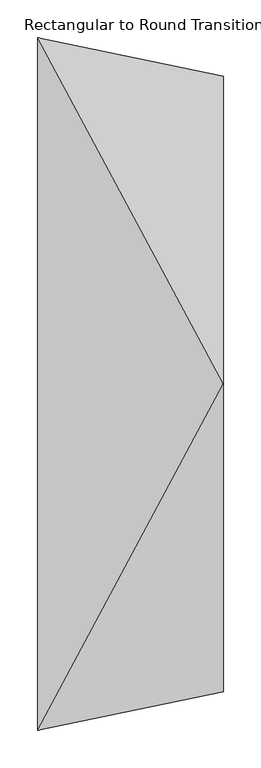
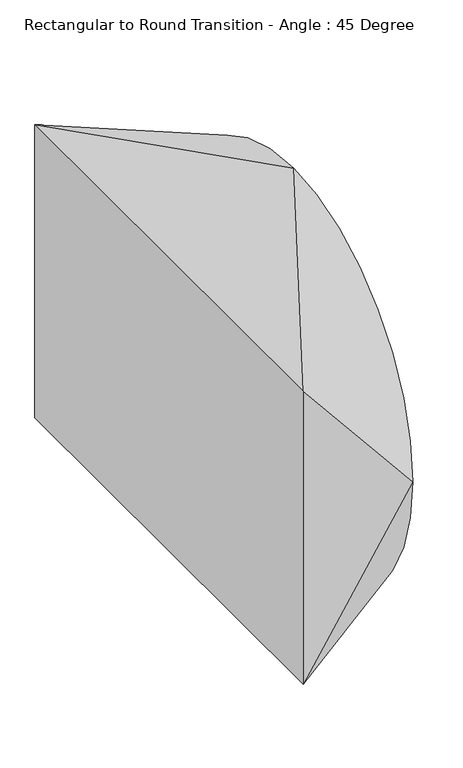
"""IFC4 building model written with IfcOpenShell, lengths in millimetres: duct fitting geometry, Rectangular to Round Transition - Angle : 45 Degree."""

from ifc_helpers import new_model, si_unit, frame, origin, place, context, project, spatial, circle_curve, source, transform, mapped, element, save
from ifc_brep_helpers import plane_surface, spline_surface, advanced_brep


def rectangular_to_round_transition_angle_45_degree_0f345050(model_context):
    return source(origin(), model_context, "Body", "AdvancedBrep", [
        advanced_brep(
        [(245.2840979, 0.0, 406.4), (245.2840979, -406.4, 0.0), (245.2840979, 0.0, -406.4), (245.2840979, 406.4, 0.0), (0.0, -457.2, 304.8), (0.0, 457.2, 304.8), (0.0, 457.2, -304.8), (0.0, -457.2, -304.8)],
        [
            (0, 1, circle_curve(frame((245.2840979, 0.0, 0.0), z_axis=(1.0, 0.0, 0.0), x_axis=(0.0, 1.0, 0.0)), 406.4)),
            (1, 2, circle_curve(frame((245.2840979, 0.0, 0.0), z_axis=(1.0, 0.0, 0.0), x_axis=(0.0, 1.0, 0.0)), 406.4)),
            (2, 3, circle_curve(frame((245.2840979, 0.0, 0.0), z_axis=(1.0, 0.0, 0.0), x_axis=(0.0, 1.0, 0.0)), 406.4)),
            (3, 0, circle_curve(frame((245.2840979, 0.0, 0.0), z_axis=(1.0, 0.0, 0.0), x_axis=(0.0, 1.0, 0.0)), 406.4)),
            (4, 5),
            (5, 6),
            (6, 7),
            (7, 4),
            (0, 4),
            (4, 1),
            (7, 1),
            (7, 2),
            (6, 2),
            (6, 3),
            (5, 3),
            (5, 0),
        ],
        [
            plane_surface(frame((245.2840979, 0.0, 0.0), z_axis=(1.0, 0.0, 0.0), x_axis=(0.0, 0.0, -1.0))),
            plane_surface(frame((0.0, 0.0, 0.0), z_axis=(-1.0, 0.0, 0.0), x_axis=(0.0, 0.0, -1.0))),
            spline_surface(2, 1, [[(0.0, -457.2, 304.8), (245.2840979, 0.0, 406.4)], [(0.0, -457.2, 304.8), (245.2840979, -406.4, 406.4)], [(0.0, -457.2, 304.8), (245.2840979, -406.4, 0.0)]], [3, 3], [2, 2], [0.0, 1.0], [0.0, 1.0], weights=[[1.0, 1.0], [0.7071067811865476, 0.7071067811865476], [1.0, 1.0]]),
            plane_surface(frame((0.0, -457.2, 0.0), z_axis=(0.20280301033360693, -0.9792195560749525, 0.0), x_axis=(0.0, 0.0, -1.0))),
            spline_surface(2, 1, [[(0.0, -457.2, -304.8), (245.2840979, -406.4, 0.0)], [(0.0, -457.2, -304.8), (245.2840979, -406.4, -406.4)], [(0.0, -457.2, -304.8), (245.2840979, 0.0, -406.4)]], [3, 3], [2, 2], [0.0, 1.0], [0.0, 1.0], weights=[[1.0, 1.0], [0.7071067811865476, 0.7071067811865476], [1.0, 1.0]]),
            plane_surface(frame((0.0, 0.0, -304.8), z_axis=(-0.3826834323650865, 0.0, -0.9238795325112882), x_axis=(0.0, 1.0, 0.0))),
            spline_surface(2, 1, [[(0.0, 457.2, -304.8), (245.2840979, 0.0, -406.4)], [(0.0, 457.2, -304.8), (245.2840979, 406.4, -406.4)], [(0.0, 457.2, -304.8), (245.2840979, 406.4, 0.0)]], [3, 3], [2, 2], [0.0, 1.0], [0.0, 1.0], weights=[[1.0, 1.0], [0.7071067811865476, 0.7071067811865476], [1.0, 1.0]]),
            plane_surface(frame((0.0, 457.2, 0.0), z_axis=(0.20280301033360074, 0.9792195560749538, 0.0), x_axis=(0.0, 0.0, 1.0))),
            spline_surface(2, 1, [[(0.0, 457.2, 304.8), (245.2840979, 406.4, 0.0)], [(0.0, 457.2, 304.8), (245.2840979, 406.4, 406.4)], [(0.0, 457.2, 304.8), (245.2840979, 0.0, 406.4)]], [3, 3], [2, 2], [0.0, 1.0], [0.0, 1.0], weights=[[1.0, 1.0], [0.7071067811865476, 0.7071067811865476], [1.0, 1.0]]),
            plane_surface(frame((0.0, 0.0, 304.8), z_axis=(-0.3826834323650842, 0.0, 0.9238795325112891), x_axis=(0.0, -1.0, 0.0))),
        ],
        [
            (0, [[1, 2, 3, 4]]),
            (1, [[5, 6, 7, 8]]),
            (2, [[-1, 9, 10]]),
            (3, [[-8, 11, -10]]),
            (4, [[-2, -11, 12]]),
            (5, [[-7, 13, -12]]),
            (6, [[-3, -13, 14]]),
            (7, [[-6, 15, -14]]),
            (8, [[-4, -15, 16]]),
            (9, [[-5, -9, -16]]),
        ],
    ),
    ])


if __name__ == "__main__":
    model = new_model("IFC4")
    model_context = context("Model", 3, world=origin())
    ifc_project = project(units=[si_unit("LENGTHUNIT", "METRE", prefix="MILLI")], contexts=[model_context])
    site = spatial("IfcSite", under=ifc_project)
    building = spatial("IfcBuilding", under=site)
    placement = place(None, origin())
    rectangular_to_round_transition_angle_45_degree_shape = rectangular_to_round_transition_angle_45_degree_0f345050(model_context)
    element("IfcDuctFitting", 1, ObjectType="Rectangular to Round Transition - Angle : 45 Degree", at=placement, inside=building, context=model_context, shape_type="MappedRepresentation", body=[
        mapped(rectangular_to_round_transition_angle_45_degree_shape, transform((0.0, 0.0, 0.0), x_axis=(1.0, 0.0, 0.0), y_axis=(0.0, 1.0, 0.0), z_axis=(0.0, 0.0, 1.0))),
    ])
    save(model, "model.ifc")
